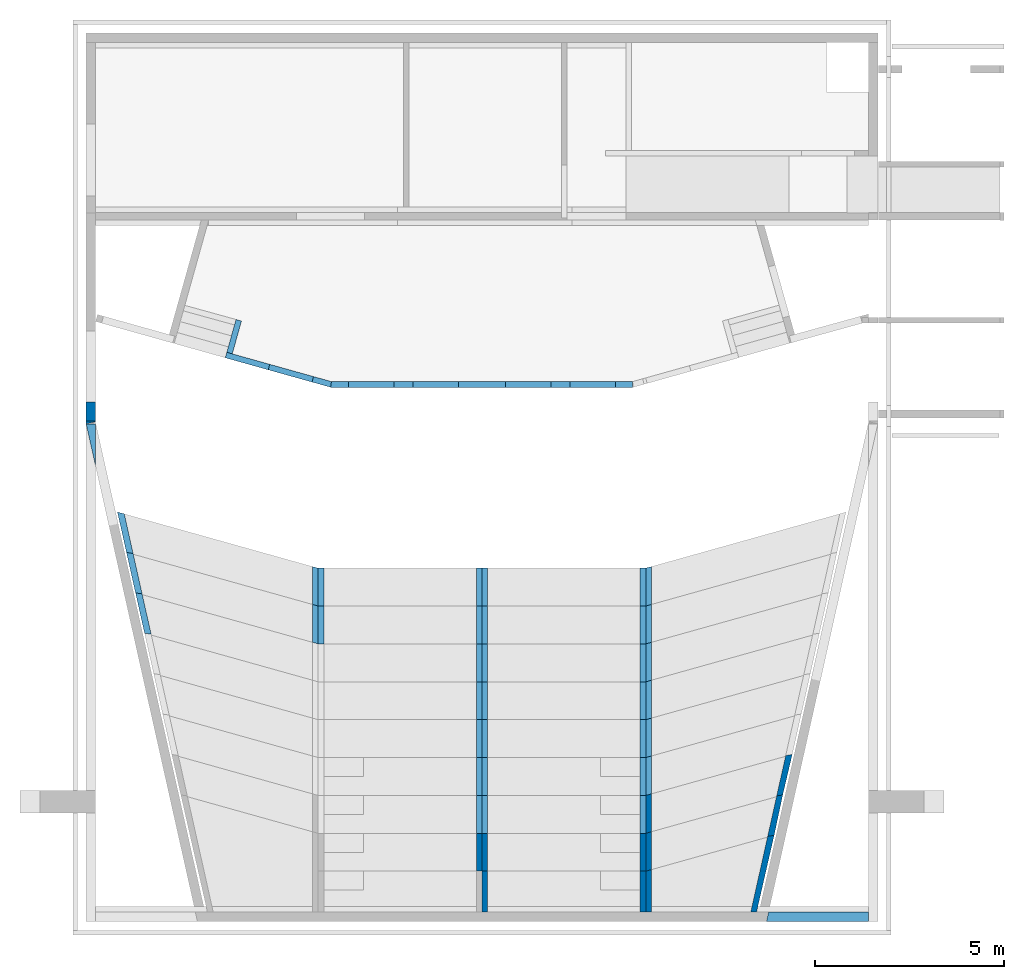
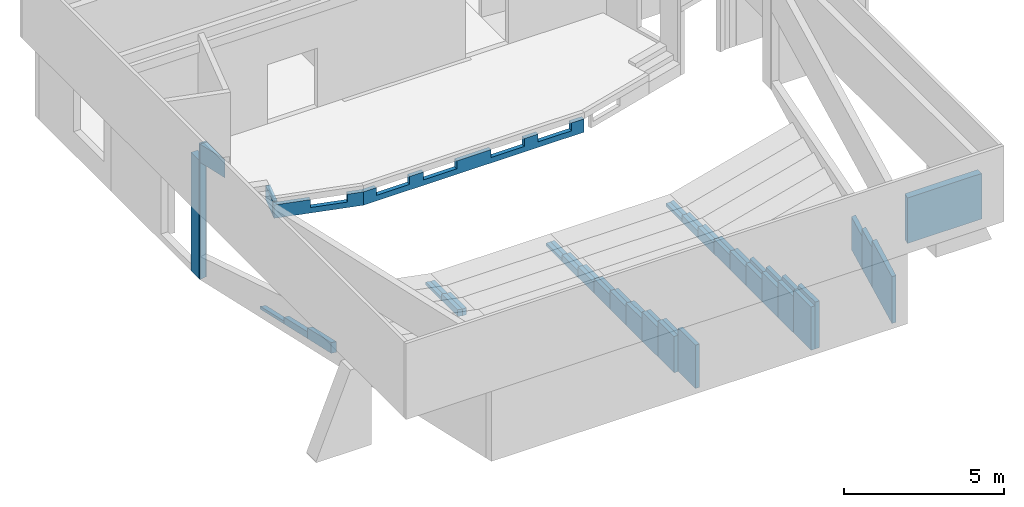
# One storey, part 2 of 5: 52 walls, 5 openings.
"""IFC4 building model written with IfcOpenShell, lengths in metres."""

import ifcopenshell
import ifcopenshell.guid

model = None  # the IFC model being written
_history = None  # IfcOwnerHistory: only IFC2X3 demands one
_inside = {}  # id of a spatial element -> (the spatial element, [elements in it])
_under = {}  # id of a project, library or spatial element -> (it, [spatial elements below it])
_declared = {}  # id of a project -> (the project, [libraries it declares])
_typed = {}  # id of a type object -> (the type object, [elements of that type])
_made_of = {}  # id of a material, layer set ... -> (it, [elements and type objects made of it])


def new_model(schema):
    """Start an empty IFC model of exactly this schema.

    Asked for "IFC4X3", IfcOpenShell would pick the latest addendum, in which some entities
    have other attributes; the version numbers below select the first issue.
    IFC2X3 requires an IfcOwnerHistory on every rooted entity: one is made here for all.
    """
    global model, _history
    if schema == "IFC4X3":
        model = ifcopenshell.file(schema_version=(4, 3, 0, 0))
    else:
        model = ifcopenshell.file(schema=schema)
    _inside.clear()
    _under.clear()
    _declared.clear()
    _typed.clear()
    _made_of.clear()
    _history = None
    if model.schema == "IFC2X3":
        org = make("IfcOrganization", Name="unknown")
        user = make(
            "IfcPersonAndOrganization",
            ThePerson=make("IfcPerson", FamilyName="unknown"),
            TheOrganization=org,
        )
        app = make(
            "IfcApplication",
            ApplicationDeveloper=org,
            Version="unknown",
            ApplicationFullName="unknown",
            ApplicationIdentifier="unknown",
        )
        _history = make(
            "IfcOwnerHistory",
            OwningUser=user,
            OwningApplication=app,
            ChangeAction="ADDED",
            CreationDate=0,
        )
    return model


def make(cls, **values):
    """One entity of the class cls with the attributes given. An attribute that is None is left unset."""
    return model.create_entity(
        cls, **{name: value for name, value in values.items() if value is not None}
    )


def entity(cls, *values):
    """Any entity or typed value of the class cls, its attributes in the order of the schema. None: left unset."""
    e = model.create_entity(cls)
    for i, value in enumerate(values):
        if value is not None:
            e[i] = value
    return e


def rooted(cls, **values):
    """An entity with a GlobalId (a new one), such as an element, a storey or a relation."""
    return make(cls, GlobalId=ifcopenshell.guid.new(), OwnerHistory=_history, **values)


def si_unit(unit_type, name, prefix=None):
    """IfcSIUnit, for example si_unit("LENGTHUNIT", "METRE", prefix="MILLI")."""
    return make("IfcSIUnit", UnitType=unit_type, Prefix=prefix, Name=name)


def converted_unit(unit_type, name, factor, base, dimensions=None, offset=None):
    """IfcConversionBasedUnit, such as the inch: factor (a typed value) times the base unit."""
    return make(
        "IfcConversionBasedUnit"
        if offset is None
        else "IfcConversionBasedUnitWithOffset",
        ConversionOffset=offset,
        Dimensions=None
        if dimensions is None
        else entity("IfcDimensionalExponents", *dimensions),
        UnitType=unit_type,
        Name=name,
        ConversionFactor=make(
            "IfcMeasureWithUnit", ValueComponent=factor, UnitComponent=base
        ),
    )


def derived_unit(unit_type, elements):
    """IfcDerivedUnit: a product of units, each with its exponent."""
    return make(
        "IfcDerivedUnit",
        Elements=[
            make("IfcDerivedUnitElement", Unit=unit, Exponent=power)
            for unit, power in elements
        ],
        UnitType=unit_type,
    )


def assignment(units):
    """IfcUnitAssignment: the units of a project."""
    return None if units is None else make("IfcUnitAssignment", Units=units)


def point(xyz):
    """IfcCartesianPoint."""
    return None if xyz is None else make("IfcCartesianPoint", Coordinates=xyz)


def direction(xyz):
    """IfcDirection."""
    return None if xyz is None else make("IfcDirection", DirectionRatios=xyz)


def frame(location, z_axis=None, x_axis=None):
    """IfcAxis2Placement3D, a coordinate frame: its origin and axes. An axis left out is left unset."""
    return make(
        "IfcAxis2Placement3D",
        Location=point(location),
        Axis=direction(z_axis),
        RefDirection=direction(x_axis),
    )


def frame_2d(location, x_axis=None):
    """IfcAxis2Placement2D, a coordinate frame in the plane: its origin and x axis."""
    return make(
        "IfcAxis2Placement2D", Location=point(location), RefDirection=direction(x_axis)
    )


def origin():
    """The frame at (0, 0, 0) with its axes left unset."""
    return frame((0.0, 0.0, 0.0))


def origin_with_axes():
    """The frame at (0, 0, 0) with the z axis (0, 0, 1) and the x axis (1, 0, 0) written out."""
    return frame((0.0, 0.0, 0.0), z_axis=(0.0, 0.0, 1.0), x_axis=(1.0, 0.0, 0.0))


def place(relative_to, where):
    """IfcLocalPlacement: puts the frame where relative to a parent placement (None: the world)."""
    return make(
        "IfcLocalPlacement", PlacementRelTo=relative_to, RelativePlacement=where
    )


def context(
    kind, dimensions, precision=None, world=None, true_north=None, identifier=None
):
    """IfcGeometricRepresentationContext, for example the 3D "Model" context."""
    return make(
        "IfcGeometricRepresentationContext",
        ContextIdentifier=identifier,
        ContextType=kind,
        CoordinateSpaceDimension=dimensions,
        Precision=precision,
        WorldCoordinateSystem=world,
        TrueNorth=true_north,
    )


def subcontext(parent, identifier, kind, view, scale=None):
    """IfcGeometricRepresentationSubContext, for example "Body" below "Model"."""
    return make(
        "IfcGeometricRepresentationSubContext",
        ContextIdentifier=identifier,
        ContextType=kind,
        ParentContext=parent,
        TargetScale=scale,
        TargetView=view,
    )


def project(units=None, contexts=None):
    """IfcProject with its units and contexts."""
    return rooted(
        "IfcProject",
        Name="project",
        RepresentationContexts=contexts,
        UnitsInContext=assignment(units),
    )


def spatial(cls, under=None, at=None, **own):
    """A site, building, storey or space (cls), placed at a placement, below another one or the project."""
    s = rooted(cls, ObjectPlacement=at, **own)
    if under is not None:
        _under.setdefault(under.id(), (under, []))[1].append(s)
    return s


def polyline(points):
    """IfcPolyline through the points."""
    return make("IfcPolyline", Points=[point(p) for p in points])


def profile(cls, at=None, kind="AREA", **sizes):
    """A parametric profile (cls). Its sizes go by their IFC names, for example OverallWidth=200.0."""
    return make(cls, ProfileType=kind, Position=at, **sizes)


def rectangle(**sizes):
    """IfcRectangleProfileDef."""
    return profile("IfcRectangleProfileDef", **sizes)


def outline(outer, holes=None, kind="AREA"):
    """IfcArbitraryClosedProfileDef: a profile drawn as a closed curve; with holes, ...WithVoids."""
    if holes is None:
        return make("IfcArbitraryClosedProfileDef", ProfileType=kind, OuterCurve=outer)
    return make(
        "IfcArbitraryProfileDefWithVoids",
        ProfileType=kind,
        OuterCurve=outer,
        InnerCurves=holes,
    )


def extrude(swept, where, along, depth):
    """IfcExtrudedAreaSolid: the profile swept, set in the frame where, extruded along a direction by depth."""
    return make(
        "IfcExtrudedAreaSolid",
        SweptArea=swept,
        Position=where,
        ExtrudedDirection=direction(along),
        Depth=depth,
    )


def clip(a, b, op="DIFFERENCE"):
    """IfcBooleanClippingResult: the solid a cut by the half space b."""
    return make(
        "IfcBooleanClippingResult", Operator=op, FirstOperand=a, SecondOperand=b
    )


def bounded_halfspace(plane, agree, where, boundary):
    """IfcPolygonalBoundedHalfSpace: a half space limited to a polygon's prism."""
    return make(
        "IfcPolygonalBoundedHalfSpace",
        BaseSurface=make("IfcPlane", Position=plane),
        AgreementFlag=agree,
        Position=where,
        PolygonalBoundary=boundary,
    )


def shape(context_of_items, identifier, shape_type, items):
    """IfcShapeRepresentation: the items that make up one representation, for example the "Body"."""
    return make(
        "IfcShapeRepresentation",
        ContextOfItems=context_of_items,
        RepresentationIdentifier=identifier,
        RepresentationType=shape_type,
        Items=items,
    )


def material(Name=None, Category=None):
    """IfcMaterial."""
    return make("IfcMaterial", Name=Name, Category=Category)


def made_of(thing, what):
    """Note that an element or type object is made of a material, layer set ...; save() writes the relation."""
    if what is not None:
        _made_of.setdefault(what.id(), (what, []))[1].append(thing)
    return thing


def element(
    cls,
    number,
    at=None,
    inside=None,
    cuts=None,
    type_object=None,
    material=None,
    context=None,
    identifier="Body",
    shape_type=None,
    held_by="IfcProductDefinitionShape",
    body=None,
    shapes=None,
    **own,
):
    """One element of the class cls, such as IfcWall. Its Tag is "e" and its number.

    at: its placement. inside: the storey or other place that contains it. cuts: it is an
    opening in that element (IfcRelVoidsElement). A single representation is given by context,
    identifier, shape_type and body (its items); several are given by shapes. held_by: the class
    of the entity that holds the representations. save() writes the other relations.
    """
    e = rooted(cls, Tag="e%d" % number, ObjectPlacement=at, **own)
    if body is not None:
        shapes = [shape(context, identifier, shape_type, body)]
    if shapes is not None:
        e.Representation = make(held_by, Representations=shapes)
    if inside is not None:
        _inside.setdefault(inside.id(), (inside, []))[1].append(e)
    if cuts is not None:
        rooted(
            "IfcRelVoidsElement", RelatingBuildingElement=cuts, RelatedOpeningElement=e
        )
    if type_object is not None:
        _typed.setdefault(type_object.id(), (type_object, []))[1].append(e)
    return made_of(e, material)


def aggregate(whole, parts):
    """IfcRelAggregates: a whole, such as a stair, and the parts it consists of."""
    return rooted("IfcRelAggregates", RelatingObject=whole, RelatedObjects=parts)


def save(model, path):
    """Write the relations noted so far, then the file.

    IfcRelAggregates (storeys below a building ...), IfcRelContainedInSpatialStructure (elements
    in a storey), IfcRelDefinesByType, IfcRelAssociatesMaterial and IfcRelDeclares: one each for
    every whole, place, type object, material and project.
    """
    for whole, parts in _under.values():
        aggregate(whole, parts)
    for where, things in _inside.values():
        rooted(
            "IfcRelContainedInSpatialStructure",
            RelatedElements=things,
            RelatingStructure=where,
        )
    for kind, things in _typed.values():
        rooted("IfcRelDefinesByType", RelatedObjects=things, RelatingType=kind)
    for what, things in _made_of.values():
        rooted("IfcRelAssociatesMaterial", RelatedObjects=things, RelatingMaterial=what)
    for by, libraries in _declared.values():
        rooted("IfcRelDeclares", RelatingContext=by, RelatedDefinitions=libraries)
    model.write(path)


model = new_model("IFC4")

# Units and contexts
model_context = context("Model", 3, precision=1e-05, world=origin())
plan_context = context("Plan", 2, precision=1e-05, world=origin())
body_context = subcontext(model_context, "Body", "Model", "MODEL_VIEW")
ifc_project = project(units=[si_unit("LENGTHUNIT", "METRE"), si_unit("AREAUNIT", "SQUARE_METRE"), si_unit("VOLUMEUNIT", "CUBIC_METRE"), si_unit("MASSUNIT", "GRAM", prefix="KILO"), converted_unit("PLANEANGLEUNIT", "DEGREE", entity("IfcPlaneAngleMeasure", 0.0174532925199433), si_unit("PLANEANGLEUNIT", "RADIAN"), dimensions=[0, 0, 0, 0, 0, 0, 0]), derived_unit("THERMALTRANSMITTANCEUNIT", [(si_unit("POWERUNIT", "WATT"), 1), (si_unit("THERMODYNAMICTEMPERATUREUNIT", "KELVIN"), -1), (si_unit("LENGTHUNIT", "METRE"), -2)]), derived_unit("VOLUMETRICFLOWRATEUNIT", [(si_unit("LENGTHUNIT", "METRE"), 3), (converted_unit("TIMEUNIT", "hour", entity("IfcTimeMeasure", 3600.0), si_unit("TIMEUNIT", "SECOND"), dimensions=[0, 0, 1, 0, 0, 0, 0]), -1), (si_unit("LENGTHUNIT", "METRE"), -1)])], contexts=[model_context, plan_context])

# Site, building, storey
site_placement = place(None, origin())
site = spatial("IfcSite", under=ifc_project, at=site_placement, Name="Site", CompositionType="ELEMENT")
building_placement = place(site_placement, origin())
building = spatial("IfcBuilding", under=site, at=building_placement, Name="Auditorium", CompositionType="ELEMENT")
storey_placement = place(building_placement, frame((0.0, 0.0, -0.26)))
storey = spatial("IfcBuildingStorey", under=building, at=storey_placement, Name="00-Rez", CompositionType="ELEMENT", Elevation=-0.26)

# Walls
ifc_material_1 = material(Name="C30/37")
wall_1_placement = place(storey_placement, frame((20.3998005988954, -0.000550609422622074, 3.06), z_axis=(0.0, 0.0, 1.0), x_axis=(-1.0, 0.0, 0.0)))
element("IfcWall", 1, at=wall_1_placement, inside=storey, material=ifc_material_1, Name="Voile BA Axe 1.1", context=body_context, shape_type="SweptSolid", body=[
    extrude(outline(polyline([(-2.6899999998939, -0.25), (-0.055936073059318, -0.25), (0.0, 0.0), (-2.6899999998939, 0.0), (-2.6899999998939, -0.25)])), frame((2.6899999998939, 0.25, 0.0), z_axis=(0.0, 0.0, 1.0), x_axis=(1.0, 0.0, 0.0)), (0.0, 0.0, 1.0), 1.74),
])
ifc_material_2 = material(Name="Silico-calcaire 15 cm")
wall_2_placement = place(storey_placement, frame((14.6748029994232, 8.12155779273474, 0.0), z_axis=(0.0, 0.0, 1.0), x_axis=(0.0, 1.0, 0.0)))
element("IfcWall", 2, at=wall_2_placement, inside=storey, material=ifc_material_2, Name="Maçonnerie Audit.", context=body_context, shape_type="SweptSolid", body=[
    extrude(outline(polyline([(0.0420406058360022, -0.149999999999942), (1.042040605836, -0.149999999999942), (1.0, 0.0), (0.0, 0.0), (0.0420406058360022, -0.149999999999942)])), frame((-0.0420406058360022, 0.149999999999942, 0.0), z_axis=(0.0, 0.0, 1.0), x_axis=(1.0, 0.0, 0.0)), (0.0, 0.0, 1.0), 0.11),
])
ifc_material_3 = material(Name="Silico-calcaire 15 cm")
wall_3_placement = place(storey_placement, frame((14.6748029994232, 7.12155779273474, 0.0), z_axis=(0.0, 0.0, 1.0), x_axis=(0.0, 1.0, 0.0)))
element("IfcWall", 3, at=wall_3_placement, inside=storey, material=ifc_material_3, Name="Maçonnerie Audit.", context=body_context, shape_type="SweptSolid", body=[
    extrude(outline(polyline([(0.0420406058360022, -0.149999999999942), (1.042040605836, -0.149999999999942), (1.0, 0.0), (0.0, 0.0), (0.0420406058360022, -0.149999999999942)])), frame((-0.0420406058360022, 0.149999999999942, 0.0), z_axis=(0.0, 0.0, 1.0), x_axis=(1.0, 0.0, 0.0)), (0.0, 0.0, 1.0), 0.26),
])
ifc_material_4 = material(Name="Silico-calcaire 15 cm")
wall_4_placement = place(storey_placement, frame((14.6748029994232, 6.12155779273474, 0.0), z_axis=(0.0, 0.0, 1.0), x_axis=(0.0, 1.0, 0.0)))
element("IfcWall", 4, at=wall_4_placement, inside=storey, material=ifc_material_4, Name="Maçonnerie Audit.", context=body_context, shape_type="SweptSolid", body=[
    extrude(outline(polyline([(0.0420406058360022, -0.149999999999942), (1.042040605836, -0.149999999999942), (1.0, 0.0), (0.0, 0.0), (0.0420406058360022, -0.149999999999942)])), frame((-0.0420406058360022, 0.149999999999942, 0.0), z_axis=(0.0, 0.0, 1.0), x_axis=(1.0, 0.0, 0.0)), (0.0, 0.0, 1.0), 0.41),
])
ifc_material_5 = material(Name="Silico-calcaire 15 cm")
wall_5_placement = place(storey_placement, frame((14.6748029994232, 5.12155779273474, 0.0), z_axis=(0.0, 0.0, 1.0), x_axis=(0.0, 1.0, 0.0)))
element("IfcWall", 5, at=wall_5_placement, inside=storey, material=ifc_material_5, Name="Maçonnerie Audit.", context=body_context, shape_type="SweptSolid", body=[
    extrude(outline(polyline([(0.0420406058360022, -0.149999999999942), (1.042040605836, -0.149999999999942), (1.0, 0.0), (0.0, 0.0), (0.0420406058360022, -0.149999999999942)])), frame((-0.0420406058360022, 0.149999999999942, 0.0), z_axis=(0.0, 0.0, 1.0), x_axis=(1.0, 0.0, 0.0)), (0.0, 0.0, 1.0), 0.56),
])
ifc_material_6 = material(Name="Silico-calcaire 15 cm")
wall_6_placement = place(storey_placement, frame((14.6748029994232, 4.12155779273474, 0.0), z_axis=(0.0, 0.0, 1.0), x_axis=(0.0, 1.0, 0.0)))
element("IfcWall", 6, at=wall_6_placement, inside=storey, material=ifc_material_6, Name="Maçonnerie Audit.", context=body_context, shape_type="SweptSolid", body=[
    extrude(outline(polyline([(0.0420406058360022, -0.149999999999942), (1.042040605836, -0.149999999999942), (1.0, 0.0), (0.0, 0.0), (0.0420406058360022, -0.149999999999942)])), frame((-0.0420406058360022, 0.149999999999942, 0.0), z_axis=(0.0, 0.0, 1.0), x_axis=(1.0, 0.0, 0.0)), (0.0, 0.0, 1.0), 0.71),
])
ifc_material_7 = material(Name="Silico-calcaire 15 cm")
wall_7_placement = place(storey_placement, frame((14.6748029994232, -0.000550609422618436, -1.13686837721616e-16), z_axis=(0.0, 0.0, 1.0), x_axis=(0.0, 1.0, 0.0)))
element("IfcWall", 7, at=wall_7_placement, inside=storey, material=ifc_material_7, Name="Maçonnerie Audit.", context=body_context, shape_type="SweptSolid", body=[
    extrude(outline(polyline([(0.0, -0.149999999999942), (1.12210840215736, -0.149999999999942), (1.08006779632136, 0.0), (0.0, 0.0), (0.0, -0.149999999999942)])), frame((0.0, 0.149999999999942, 0.0), z_axis=(0.0, 0.0, 1.0), x_axis=(1.0, 0.0, 0.0)), (0.0, 0.0, 1.0), 1.79),
])
ifc_material_8 = material(Name="Silico-calcaire 15 cm")
wall_8_placement = place(storey_placement, frame((14.6748029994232, 1.12155779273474, 0.0), z_axis=(0.0, 0.0, 1.0), x_axis=(0.0, 1.0, 0.0)))
element("IfcWall", 8, at=wall_8_placement, inside=storey, material=ifc_material_8, Name="Maçonnerie Audit.", context=body_context, shape_type="SweptSolid", body=[
    extrude(outline(polyline([(0.0420406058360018, -0.149999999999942), (1.042040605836, -0.149999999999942), (1.0, 0.0), (0.0, 0.0), (0.0420406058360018, -0.149999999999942)])), frame((-0.0420406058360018, 0.149999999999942, 0.0), z_axis=(0.0, 0.0, 1.0), x_axis=(1.0, 0.0, 0.0)), (0.0, 0.0, 1.0), 1.52),
])
ifc_material_9 = material(Name="Silico-calcaire 15 cm")
wall_9_placement = place(storey_placement, frame((14.6748029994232, 2.12155779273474, 0.0), z_axis=(0.0, 0.0, 1.0), x_axis=(0.0, 1.0, 0.0)))
element("IfcWall", 9, at=wall_9_placement, inside=storey, material=ifc_material_9, Name="Maçonnerie Audit.", context=body_context, shape_type="SweptSolid", body=[
    extrude(outline(polyline([(0.0420406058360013, -0.149999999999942), (1.042040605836, -0.149999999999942), (1.0, 0.0), (0.0, 0.0), (0.0420406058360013, -0.149999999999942)])), frame((-0.0420406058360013, 0.149999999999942, 0.0), z_axis=(0.0, 0.0, 1.0), x_axis=(1.0, 0.0, 0.0)), (0.0, 0.0, 1.0), 1.25),
])
ifc_material_10 = material(Name="Silico-calcaire 15 cm")
wall_10_placement = place(storey_placement, frame((14.6748029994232, 3.12155779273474, -5.6843418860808e-17), z_axis=(0.0, 0.0, 1.0), x_axis=(0.0, 1.0, 0.0)))
element("IfcWall", 10, at=wall_10_placement, inside=storey, material=ifc_material_10, Name="Maçonnerie Audit.", context=body_context, shape_type="SweptSolid", body=[
    extrude(outline(polyline([(0.0420406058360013, -0.149999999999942), (1.042040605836, -0.149999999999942), (1.0, 0.0), (0.0, 0.0), (0.0420406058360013, -0.149999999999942)])), frame((-0.0420406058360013, 0.149999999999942, 0.0), z_axis=(0.0, 0.0, 1.0), x_axis=(1.0, 0.0, 0.0)), (0.0, 0.0, 1.0), 0.98),
])
ifc_material_11 = material(Name="Silico-calcaire 15 cm")
wall_11_placement = place(storey_placement, frame((14.5248029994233, 8.07951718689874, 0.0), z_axis=(0.0, 0.0, 1.0), x_axis=(0.0, 1.0, 0.0)))
element("IfcWall", 11, at=wall_11_placement, inside=storey, material=ifc_material_11, Name="Maçonnerie Audit.", context=body_context, shape_type="SweptSolid", body=[
    extrude(rectangle(XDim=1.0, YDim=0.149999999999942, at=frame_2d((0.5, 0.0749999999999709), x_axis=(1.0, 0.0))), origin_with_axes(), (0.0, 0.0, 1.0), 0.11),
])
ifc_material_12 = material(Name="Silico-calcaire 15 cm")
wall_12_placement = place(storey_placement, frame((14.5248029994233, 7.07951718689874, 0.0), z_axis=(0.0, 0.0, 1.0), x_axis=(0.0, 1.0, 0.0)))
element("IfcWall", 12, at=wall_12_placement, inside=storey, material=ifc_material_12, Name="Maçonnerie Audit.", context=body_context, shape_type="SweptSolid", body=[
    extrude(rectangle(XDim=1.0, YDim=0.149999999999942, at=frame_2d((0.5, 0.0749999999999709), x_axis=(1.0, 0.0))), origin_with_axes(), (0.0, 0.0, 1.0), 0.26),
])
ifc_material_13 = material(Name="Silico-calcaire 15 cm")
wall_13_placement = place(storey_placement, frame((14.5248029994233, 6.07951718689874, 0.0), z_axis=(0.0, 0.0, 1.0), x_axis=(0.0, 1.0, 0.0)))
element("IfcWall", 13, at=wall_13_placement, inside=storey, material=ifc_material_13, Name="Maçonnerie Audit.", context=body_context, shape_type="SweptSolid", body=[
    extrude(rectangle(XDim=1.0, YDim=0.149999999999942, at=frame_2d((0.5, 0.0749999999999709), x_axis=(1.0, 0.0))), origin_with_axes(), (0.0, 0.0, 1.0), 0.41),
])
ifc_material_14 = material(Name="Silico-calcaire 15 cm")
wall_14_placement = place(storey_placement, frame((14.5248029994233, 5.07951718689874, 0.0), z_axis=(0.0, 0.0, 1.0), x_axis=(0.0, 1.0, 0.0)))
element("IfcWall", 14, at=wall_14_placement, inside=storey, material=ifc_material_14, Name="Maçonnerie Audit.", context=body_context, shape_type="SweptSolid", body=[
    extrude(rectangle(XDim=1.0, YDim=0.149999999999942, at=frame_2d((0.5, 0.0749999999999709), x_axis=(1.0, 0.0))), origin_with_axes(), (0.0, 0.0, 1.0), 0.56),
])
ifc_material_15 = material(Name="Silico-calcaire 15 cm")
wall_15_placement = place(storey_placement, frame((14.5248029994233, 4.07951718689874, 0.0), z_axis=(0.0, 0.0, 1.0), x_axis=(0.0, 1.0, 0.0)))
element("IfcWall", 15, at=wall_15_placement, inside=storey, material=ifc_material_15, Name="Maçonnerie Audit.", context=body_context, shape_type="SweptSolid", body=[
    extrude(rectangle(XDim=1.0, YDim=0.149999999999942, at=frame_2d((0.5, 0.0749999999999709), x_axis=(1.0, 0.0))), origin_with_axes(), (0.0, 0.0, 1.0), 0.71),
])
ifc_material_16 = material(Name="Silico-calcaire 15 cm")
wall_16_placement = place(storey_placement, frame((14.5248029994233, 3.07951718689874, 0.0), z_axis=(0.0, 0.0, 1.0), x_axis=(0.0, 1.0, 0.0)))
element("IfcWall", 16, at=wall_16_placement, inside=storey, material=ifc_material_16, Name="Maçonnerie Audit.", context=body_context, shape_type="SweptSolid", body=[
    extrude(rectangle(XDim=1.0, YDim=0.149999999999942, at=frame_2d((0.5, 0.0749999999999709), x_axis=(1.0, 0.0))), origin_with_axes(), (0.0, 0.0, 1.0), 0.845),
])
ifc_material_17 = material(Name="Silico-calcaire 15 cm")
wall_17_placement = place(storey_placement, frame((14.5248029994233, 1.07951718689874, 0.0), z_axis=(0.0, 0.0, 1.0), x_axis=(0.0, 1.0, 0.0)))
element("IfcWall", 17, at=wall_17_placement, inside=storey, material=ifc_material_17, Name="Maçonnerie Audit.", context=body_context, shape_type="SweptSolid", body=[
    extrude(rectangle(XDim=1.0, YDim=0.149999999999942, at=frame_2d((0.5, 0.0749999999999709), x_axis=(1.0, 0.0))), origin_with_axes(), (0.0, 0.0, 1.0), 1.385),
])
ifc_material_18 = material(Name="Silico-calcaire 15 cm")
wall_18_placement = place(storey_placement, frame((14.5248029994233, 2.07951718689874, 0.0), z_axis=(0.0, 0.0, 1.0), x_axis=(0.0, 1.0, 0.0)))
element("IfcWall", 18, at=wall_18_placement, inside=storey, material=ifc_material_18, Name="Maçonnerie Audit.", context=body_context, shape_type="SweptSolid", body=[
    extrude(rectangle(XDim=1.0, YDim=0.149999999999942, at=frame_2d((0.5, 0.0749999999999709), x_axis=(1.0, 0.0))), origin_with_axes(), (0.0, 0.0, 1.0), 1.115),
])
ifc_material_19 = material(Name="Silico-calcaire 15 cm")
wall_19_placement = place(storey_placement, frame((14.5248029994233, -0.000550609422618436, 0.0), z_axis=(0.0, 0.0, 1.0), x_axis=(0.0, 1.0, 0.0)))
element("IfcWall", 19, at=wall_19_placement, inside=storey, material=ifc_material_19, Name="Maçonnerie Audit.", context=body_context, shape_type="SweptSolid", body=[
    extrude(rectangle(XDim=1.08006779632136, YDim=0.149999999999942, at=frame_2d((0.540033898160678, 0.0749999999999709), x_axis=(1.0, 0.0))), origin_with_axes(), (0.0, 0.0, 1.0), 1.655),
])
ifc_material_20 = material(Name="Silico-calcaire 15 cm")
wall_20_placement = place(storey_placement, frame((6.02480299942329, 8.07951718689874, 0.0), z_axis=(0.0, 0.0, 1.0), x_axis=(0.0, 1.0, 0.0)))
element("IfcWall", 20, at=wall_20_placement, inside=storey, material=ifc_material_20, Name="Maçonnerie Audit.", context=body_context, shape_type="SweptSolid", body=[
    extrude(rectangle(XDim=1.0, YDim=0.149999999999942, at=frame_2d((0.5, 0.0749999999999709), x_axis=(1.0, 0.0))), origin_with_axes(), (0.0, 0.0, 1.0), 0.11),
])
ifc_material_21 = material(Name="Silico-calcaire 15 cm")
wall_21_placement = place(storey_placement, frame((6.02480299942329, 7.07951718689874, 0.0), z_axis=(0.0, 0.0, 1.0), x_axis=(0.0, 1.0, 0.0)))
element("IfcWall", 21, at=wall_21_placement, inside=storey, material=ifc_material_21, Name="Maçonnerie Audit.", context=body_context, shape_type="SweptSolid", body=[
    extrude(rectangle(XDim=1.0, YDim=0.149999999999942, at=frame_2d((0.5, 0.0749999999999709), x_axis=(1.0, 0.0))), origin_with_axes(), (0.0, 0.0, 1.0), 0.26),
])
ifc_material_22 = material(Name="Silico-calcaire 15 cm")
wall_22_placement = place(storey_placement, frame((5.87480299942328, 8.07951718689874, 0.0), z_axis=(0.0, 0.0, 1.0), x_axis=(0.0, 1.0, 0.0)))
element("IfcWall", 22, at=wall_22_placement, inside=storey, material=ifc_material_22, Name="Maçonnerie Audit.", context=body_context, shape_type="SweptSolid", body=[
    extrude(outline(polyline([(0.0, -0.149999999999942), (1.0, -0.149999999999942), (1.042040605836, 0.0), (0.0420406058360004, 0.0), (0.0, -0.149999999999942)])), frame((0.0, 0.149999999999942, 0.0), z_axis=(0.0, 0.0, 1.0), x_axis=(1.0, 0.0, 0.0)), (0.0, 0.0, 1.0), 0.11),
])
ifc_material_23 = material(Name="Silico-calcaire 15 cm")
wall_23_placement = place(storey_placement, frame((5.87480299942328, 7.07951718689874, 0.0), z_axis=(0.0, 0.0, 1.0), x_axis=(0.0, 1.0, 0.0)))
element("IfcWall", 23, at=wall_23_placement, inside=storey, material=ifc_material_23, Name="Maçonnerie Audit.", context=body_context, shape_type="SweptSolid", body=[
    extrude(outline(polyline([(0.0, -0.149999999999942), (1.0, -0.149999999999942), (1.042040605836, 0.0), (0.0420406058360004, 0.0), (0.0, -0.149999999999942)])), frame((0.0, 0.149999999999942, 0.0), z_axis=(0.0, 0.0, 1.0), x_axis=(1.0, 0.0, 0.0)), (0.0, 0.0, 1.0), 0.26),
])
ifc_material_24 = material(Name="Silico-calcaire 15 cm")
wall_24_placement = place(storey_placement, frame((10.1998029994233, 8.07951718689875, 0.0), z_axis=(0.0, 0.0, 1.0), x_axis=(0.0, 1.0, 0.0)))
element("IfcWall", 24, at=wall_24_placement, inside=storey, material=ifc_material_24, Name="Maçonnerie Audit.", context=body_context, shape_type="SweptSolid", body=[
    extrude(rectangle(XDim=1.0, YDim=0.149999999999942, at=frame_2d((0.5, 0.0749999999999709), x_axis=(1.0, 0.0))), origin_with_axes(), (0.0, 0.0, 1.0), 0.11),
])
ifc_material_25 = material(Name="Silico-calcaire 15 cm")
wall_25_placement = place(storey_placement, frame((10.1998029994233, 7.07951718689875, 0.0), z_axis=(0.0, 0.0, 1.0), x_axis=(0.0, 1.0, 0.0)))
element("IfcWall", 25, at=wall_25_placement, inside=storey, material=ifc_material_25, Name="Maçonnerie Audit.", context=body_context, shape_type="SweptSolid", body=[
    extrude(rectangle(XDim=1.0, YDim=0.149999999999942, at=frame_2d((0.5, 0.0749999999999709), x_axis=(1.0, 0.0))), origin_with_axes(), (0.0, 0.0, 1.0), 0.26),
])
ifc_material_26 = material(Name="Silico-calcaire 15 cm")
wall_26_placement = place(storey_placement, frame((10.1998029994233, 6.07951718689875, 0.0), z_axis=(0.0, 0.0, 1.0), x_axis=(0.0, 1.0, 0.0)))
element("IfcWall", 26, at=wall_26_placement, inside=storey, material=ifc_material_26, Name="Maçonnerie Audit.", context=body_context, shape_type="SweptSolid", body=[
    extrude(rectangle(XDim=1.0, YDim=0.149999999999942, at=frame_2d((0.5, 0.0749999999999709), x_axis=(1.0, 0.0))), origin_with_axes(), (0.0, 0.0, 1.0), 0.41),
])
ifc_material_27 = material(Name="Silico-calcaire 15 cm")
wall_27_placement = place(storey_placement, frame((10.1998029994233, 5.07951718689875, 0.0), z_axis=(0.0, 0.0, 1.0), x_axis=(0.0, 1.0, 0.0)))
element("IfcWall", 27, at=wall_27_placement, inside=storey, material=ifc_material_27, Name="Maçonnerie Audit.", context=body_context, shape_type="SweptSolid", body=[
    extrude(rectangle(XDim=1.0, YDim=0.149999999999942, at=frame_2d((0.5, 0.0749999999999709), x_axis=(1.0, 0.0))), origin_with_axes(), (0.0, 0.0, 1.0), 0.56),
])
ifc_material_28 = material(Name="Silico-calcaire 15 cm")
wall_28_placement = place(storey_placement, frame((10.1998029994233, 4.07951718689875, 0.0), z_axis=(0.0, 0.0, 1.0), x_axis=(0.0, 1.0, 0.0)))
element("IfcWall", 28, at=wall_28_placement, inside=storey, material=ifc_material_28, Name="Maçonnerie Audit.", context=body_context, shape_type="SweptSolid", body=[
    extrude(rectangle(XDim=1.0, YDim=0.149999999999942, at=frame_2d((0.5, 0.0749999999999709), x_axis=(1.0, 0.0))), origin_with_axes(), (0.0, 0.0, 1.0), 0.71),
])
ifc_material_29 = material(Name="Silico-calcaire 15 cm")
wall_29_placement = place(storey_placement, frame((10.1998029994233, 3.07951718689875, 0.0), z_axis=(0.0, 0.0, 1.0), x_axis=(0.0, 1.0, 0.0)))
element("IfcWall", 29, at=wall_29_placement, inside=storey, material=ifc_material_29, Name="Maçonnerie Audit.", context=body_context, shape_type="SweptSolid", body=[
    extrude(rectangle(XDim=1.0, YDim=0.149999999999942, at=frame_2d((0.5, 0.0749999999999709), x_axis=(1.0, 0.0))), origin_with_axes(), (0.0, 0.0, 1.0), 0.845),
])
ifc_material_30 = material(Name="Silico-calcaire 15 cm")
wall_30_placement = place(storey_placement, frame((10.1998029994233, 1.07951718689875, 0.0), z_axis=(0.0, 0.0, 1.0), x_axis=(0.0, 1.0, 0.0)))
element("IfcWall", 30, at=wall_30_placement, inside=storey, material=ifc_material_30, Name="Maçonnerie Audit.", context=body_context, shape_type="SweptSolid", body=[
    extrude(rectangle(XDim=1.0, YDim=0.149999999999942, at=frame_2d((0.5, 0.0749999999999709), x_axis=(1.0, 0.0))), origin_with_axes(), (0.0, 0.0, 1.0), 1.385),
])
ifc_material_31 = material(Name="Silico-calcaire 15 cm")
wall_31_placement = place(storey_placement, frame((10.1998029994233, 2.07951718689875, 0.0), z_axis=(0.0, 0.0, 1.0), x_axis=(0.0, 1.0, 0.0)))
element("IfcWall", 31, at=wall_31_placement, inside=storey, material=ifc_material_31, Name="Maçonnerie Audit.", context=body_context, shape_type="SweptSolid", body=[
    extrude(rectangle(XDim=1.0, YDim=0.149999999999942, at=frame_2d((0.5, 0.0749999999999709), x_axis=(1.0, 0.0))), origin_with_axes(), (0.0, 0.0, 1.0), 1.115),
])
ifc_material_32 = material(Name="Silico-calcaire 15 cm")
wall_32_placement = place(storey_placement, frame((10.3498029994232, 8.07951718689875, 0.0), z_axis=(0.0, 0.0, 1.0), x_axis=(0.0, 1.0, 0.0)))
element("IfcWall", 32, at=wall_32_placement, inside=storey, material=ifc_material_32, Name="Maçonnerie Audit.", context=body_context, shape_type="SweptSolid", body=[
    extrude(rectangle(XDim=1.0, YDim=0.149999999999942, at=frame_2d((0.5, 0.0749999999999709), x_axis=(1.0, 0.0))), origin_with_axes(), (0.0, 0.0, 1.0), 0.11),
])
ifc_material_33 = material(Name="Silico-calcaire 15 cm")
wall_33_placement = place(storey_placement, frame((10.3498029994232, 7.07951718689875, 0.0), z_axis=(0.0, 0.0, 1.0), x_axis=(0.0, 1.0, 0.0)))
element("IfcWall", 33, at=wall_33_placement, inside=storey, material=ifc_material_33, Name="Maçonnerie Audit.", context=body_context, shape_type="SweptSolid", body=[
    extrude(rectangle(XDim=1.0, YDim=0.149999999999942, at=frame_2d((0.5, 0.0749999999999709), x_axis=(1.0, 0.0))), origin_with_axes(), (0.0, 0.0, 1.0), 0.26),
])
ifc_material_34 = material(Name="Silico-calcaire 15 cm")
wall_34_placement = place(storey_placement, frame((10.3498029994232, 6.07951718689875, 0.0), z_axis=(0.0, 0.0, 1.0), x_axis=(0.0, 1.0, 0.0)))
element("IfcWall", 34, at=wall_34_placement, inside=storey, material=ifc_material_34, Name="Maçonnerie Audit.", context=body_context, shape_type="SweptSolid", body=[
    extrude(rectangle(XDim=1.0, YDim=0.149999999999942, at=frame_2d((0.5, 0.0749999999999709), x_axis=(1.0, 0.0))), origin_with_axes(), (0.0, 0.0, 1.0), 0.41),
])
ifc_material_35 = material(Name="Silico-calcaire 15 cm")
wall_35_placement = place(storey_placement, frame((10.3498029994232, 5.07951718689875, 0.0), z_axis=(0.0, 0.0, 1.0), x_axis=(0.0, 1.0, 0.0)))
element("IfcWall", 35, at=wall_35_placement, inside=storey, material=ifc_material_35, Name="Maçonnerie Audit.", context=body_context, shape_type="SweptSolid", body=[
    extrude(rectangle(XDim=1.0, YDim=0.149999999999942, at=frame_2d((0.5, 0.0749999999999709), x_axis=(1.0, 0.0))), origin_with_axes(), (0.0, 0.0, 1.0), 0.56),
])
ifc_material_36 = material(Name="Silico-calcaire 15 cm")
wall_36_placement = place(storey_placement, frame((10.3498029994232, 4.07951718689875, 0.0), z_axis=(0.0, 0.0, 1.0), x_axis=(0.0, 1.0, 0.0)))
element("IfcWall", 36, at=wall_36_placement, inside=storey, material=ifc_material_36, Name="Maçonnerie Audit.", context=body_context, shape_type="SweptSolid", body=[
    extrude(rectangle(XDim=1.0, YDim=0.149999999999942, at=frame_2d((0.5, 0.0749999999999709), x_axis=(1.0, 0.0))), origin_with_axes(), (0.0, 0.0, 1.0), 0.71),
])
ifc_material_37 = material(Name="Silico-calcaire 15 cm")
wall_37_placement = place(storey_placement, frame((10.3498029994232, 3.07951718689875, 0.0), z_axis=(0.0, 0.0, 1.0), x_axis=(0.0, 1.0, 0.0)))
element("IfcWall", 37, at=wall_37_placement, inside=storey, material=ifc_material_37, Name="Maçonnerie Audit.", context=body_context, shape_type="SweptSolid", body=[
    extrude(rectangle(XDim=1.0, YDim=0.149999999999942, at=frame_2d((0.5, 0.0749999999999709), x_axis=(1.0, 0.0))), origin_with_axes(), (0.0, 0.0, 1.0), 0.845),
])
ifc_material_38 = material(Name="Silico-calcaire 15 cm")
wall_38_placement = place(storey_placement, frame((10.3498029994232, 1.07951718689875, 0.0), z_axis=(0.0, 0.0, 1.0), x_axis=(0.0, 1.0, 0.0)))
element("IfcWall", 38, at=wall_38_placement, inside=storey, material=ifc_material_38, Name="Maçonnerie Audit.", context=body_context, shape_type="SweptSolid", body=[
    extrude(rectangle(XDim=1.0, YDim=0.149999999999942, at=frame_2d((0.5, 0.0749999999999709), x_axis=(1.0, 0.0))), origin_with_axes(), (0.0, 0.0, 1.0), 1.385),
])
ifc_material_39 = material(Name="Silico-calcaire 15 cm")
wall_39_placement = place(storey_placement, frame((10.3498029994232, 2.07951718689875, 0.0), z_axis=(0.0, 0.0, 1.0), x_axis=(0.0, 1.0, 0.0)))
element("IfcWall", 39, at=wall_39_placement, inside=storey, material=ifc_material_39, Name="Maçonnerie Audit.", context=body_context, shape_type="SweptSolid", body=[
    extrude(rectangle(XDim=1.0, YDim=0.149999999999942, at=frame_2d((0.5, 0.0749999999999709), x_axis=(1.0, 0.0))), origin_with_axes(), (0.0, 0.0, 1.0), 1.115),
])
ifc_material_40 = material(Name="Silico-calcaire 15 cm")
wall_40_placement = place(storey_placement, frame((10.3498029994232, -0.00055060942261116, 0.0), z_axis=(0.0, 0.0, 1.0), x_axis=(0.0, 1.0, 0.0)))
element("IfcWall", 40, at=wall_40_placement, inside=storey, material=ifc_material_40, Name="Maçonnerie Audit.", context=body_context, shape_type="SweptSolid", body=[
    extrude(rectangle(XDim=1.08006779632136, YDim=0.149999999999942, at=frame_2d((0.540033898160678, 0.0749999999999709), x_axis=(1.0, 0.0))), origin_with_axes(), (0.0, 0.0, 1.0), 1.655),
])

# Wall, openings
ifc_material_41 = material(Name="Silico-calcaire 15 cm")
wall_41_placement = place(storey_placement, frame((6.20455301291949, 13.8541506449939, 0.0), z_axis=(0.0, 0.0, 1.0), x_axis=(1.0, -1.36934976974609e-15, 0.0)))
wall_41 = element("IfcWall", 41, at=wall_41_placement, inside=storey, material=ifc_material_41, Name="Maçonnerie Audit.", context=body_context, shape_type="SweptSolid", body=[
    extrude(outline(polyline([(-1.49449963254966e-29, 1.09139364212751e-14), (7.9701597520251, 1.09139364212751e-14), (7.9701597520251, 0.149999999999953), (0.0205987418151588, 0.149999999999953), (-1.49449963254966e-29, 1.09139364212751e-14)])), frame((1.49449963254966e-29, -1.09139364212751e-14, 0.0), z_axis=(0.0, 0.0, 1.0), x_axis=(1.0, 0.0, 0.0)), (0.0, 0.0, 1.0), 0.51),
])
opening_1_placement = place(wall_41_placement, frame((4.61632870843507, 4.50237925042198e-15, 0.21), z_axis=(0.0, 1.0, 0.0), x_axis=(0.0, 0.0, 1.0)))
element("IfcOpeningElement", 42, at=opening_1_placement, cuts=wall_41, Name="Niche dans mur", ObjectType="Opening", context=body_context, shape_type="SweptSolid", body=[
    extrude(outline(polyline([(0.0, 1.2), (0.3, 1.2), (0.3, 0.0), (0.0, 0.0), (0.0, 1.2)])), origin_with_axes(), (0.0, 0.0, 1.0), 0.149999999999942),
])
opening_2_placement = place(wall_41_placement, frame((6.31632870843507, 1.37330564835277e-15, 0.21), z_axis=(0.0, 1.0, 0.0), x_axis=(0.0, 0.0, 1.0)))
element("IfcOpeningElement", 43, at=opening_2_placement, cuts=wall_41, Name="Niche dans mur", ObjectType="Opening", context=body_context, shape_type="SweptSolid", body=[
    extrude(outline(polyline([(0.0, 1.2), (0.3, 1.2), (0.3, 0.0), (0.0, 0.0), (0.0, 1.2)])), origin_with_axes(), (0.0, 0.0, 1.0), 0.149999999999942),
])
opening_3_placement = place(wall_41_placement, frame((2.17416645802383, 1.15820493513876e-15, 0.21), z_axis=(0.0, 1.0, 0.0), x_axis=(0.0, 0.0, 1.0)))
element("IfcOpeningElement", 44, at=opening_3_placement, cuts=wall_41, Name="Niche dans mur", ObjectType="Opening", context=body_context, shape_type="SweptSolid", body=[
    extrude(outline(polyline([(0.0, 1.2), (0.3, 1.2), (0.3, 0.0), (0.0, 0.0), (0.0, 1.2)])), origin_with_axes(), (0.0, 0.0, 1.0), 0.149999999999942),
])
opening_4_placement = place(wall_41_placement, frame((0.474166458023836, -1.1696896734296e-15, 0.21), z_axis=(-1.51582450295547e-15, 1.0, 0.0), x_axis=(0.0, 0.0, 1.0)))
element("IfcOpeningElement", 45, at=opening_4_placement, cuts=wall_41, Name="Niche dans mur", ObjectType="Opening", context=body_context, shape_type="SweptSolid", body=[
    extrude(outline(polyline([(0.0, 1.2), (0.3, 1.2), (0.3, 0.0), (0.0, 0.0), (0.0, 1.2)])), origin_with_axes(), (0.0, 0.0, 1.0), 0.149999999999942),
])

# Wall, opening
ifc_material_42 = material(Name="Silico-calcaire 15 cm")
wall_42_placement = place(storey_placement, frame((3.42375991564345, 14.6325747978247, 0.0), z_axis=(0.0, 0.0, 1.0), x_axis=(0.96298181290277, -0.269566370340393, 0.0)))
wall_42 = element("IfcWall", 46, at=wall_42_placement, inside=storey, material=ifc_material_42, Name="Maçonnerie Audit.", context=body_context, shape_type="SweptSolid", body=[
    extrude(outline(polyline([(-0.209836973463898, 0.74960830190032), (2.67785317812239, 0.74960830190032), (2.65725443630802, 0.899608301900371), (-0.209836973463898, 0.899608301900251), (-0.209836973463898, 0.74960830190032)])), frame((0.209836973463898, -0.74960830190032, 0.0), z_axis=(0.0, 0.0, 1.0), x_axis=(1.0, 0.0, 0.0)), (0.0, 0.0, 1.0), 0.51),
])
opening_5_placement = place(wall_42_placement, frame((1.17754608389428, -7.38964445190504e-16, 0.21), z_axis=(1.51582450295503e-15, 1.0, 0.0), x_axis=(0.0, 0.0, 1.0)))
element("IfcOpeningElement", 47, at=opening_5_placement, cuts=wall_42, Name="Niche dans mur", ObjectType="Opening", context=body_context, shape_type="SweptSolid", body=[
    extrude(outline(polyline([(0.0, 1.2), (0.3, 1.2), (0.3, 0.0), (0.0, 0.0), (0.0, 1.2)])), origin_with_axes(), (0.0, 0.0, 1.0), 0.149999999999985),
])

# Walls
ifc_material_43 = material(Name="Silico-calcaire 15 cm")
wall_43_placement = place(storey_placement, frame((3.6086421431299, 14.736587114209, 0.0), z_axis=(0.0, 0.0, 1.0), x_axis=(0.26956637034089, 0.962981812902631, 0.0)))
element("IfcWall", 48, at=wall_43_placement, inside=storey, material=ifc_material_43, Name="Maçonnerie Audit.", context=body_context, shape_type="SweptSolid", body=[
    extrude(outline(polyline([(0.0389381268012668, -0.139100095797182), (0.938938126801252, -0.139100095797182), (0.938374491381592, 0.0108977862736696), (0.938374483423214, 0.0108999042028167), (0.931101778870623, 0.0108999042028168), (0.788980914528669, 0.0103658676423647), (0.788978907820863, 0.0108999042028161), (0.788373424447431, 0.0108999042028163), (0.788373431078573, 0.010898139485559), (0.0389381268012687, 0.0108999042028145), (0.0389381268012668, -0.139100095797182)])), frame((-0.0389381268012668, 0.139100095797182, 0.0), z_axis=(0.0, 0.0, 1.0), x_axis=(1.0, 0.0, 0.0)), (0.0, 0.0, 1.0), 0.55),
])
ifc_material_44 = material(Name="Silico-calcaire 15 cm")
wall_44_placement = place(storey_placement, frame((0.990672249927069, 9.46636045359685, 0.0), z_axis=(0.0, 0.0, 1.0), x_axis=(-0.217991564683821, 0.975950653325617, 0.0)))
element("IfcWall", 49, at=wall_44_placement, inside=storey, material=ifc_material_44, Name="Maçonnerie Audit.", context=body_context, shape_type="SweptSolid", body=[
    extrude(outline(polyline([(-0.0902228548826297, -0.403928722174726), (0.9813487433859, -0.403928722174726), (1.06990603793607, -0.238977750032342), (-0.0233650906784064, -0.239516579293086), (-0.0902228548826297, -0.403928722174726)])), frame((0.0902228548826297, 0.403928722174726, 0.0), z_axis=(0.0, 0.0, 1.0), x_axis=(1.0, 0.0, 0.0)), (0.0, 0.0, 1.0), 0.11),
])
ifc_material_45 = material(Name="Silico-calcaire 15 cm")
wall_45_placement = place(storey_placement, frame((1.22895241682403, 8.39957750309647, 0.0), z_axis=(0.0, 0.0, 1.0), x_axis=(-0.217991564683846, 0.975950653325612, 0.0)))
element("IfcWall", 50, at=wall_45_placement, inside=storey, material=ifc_material_45, Name="Maçonnerie Audit.", context=body_context, shape_type="SweptSolid", body=[
    extrude(outline(polyline([(-0.0900986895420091, -0.40337283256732), (1.00297189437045, -0.40337283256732), (1.06982965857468, -0.238960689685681), (-0.0234414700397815, -0.239499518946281), (-0.0900986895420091, -0.40337283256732)])), frame((0.0900986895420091, 0.40337283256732, 0.0), z_axis=(0.0, 0.0, 1.0), x_axis=(1.0, 0.0, 0.0)), (0.0, 0.0, 1.0), 0.26),
])
ifc_material_46 = material(Name="Silico-calcaire 15 cm")
wall_46_placement = place(storey_placement, frame((1.46723258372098, 7.33279455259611, 0.0), z_axis=(0.0, 0.0, 1.0), x_axis=(-0.217991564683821, 0.975950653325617, 0.0)))
element("IfcWall", 51, at=wall_46_placement, inside=storey, material=ifc_material_46, Name="Maçonnerie Audit.", context=body_context, shape_type="SweptSolid", body=[
    extrude(outline(polyline([(-0.0899745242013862, -0.402816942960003), (1.00309605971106, -0.402816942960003), (1.0697532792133, -0.238943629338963), (-0.0235178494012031, -0.23948245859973), (-0.0899745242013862, -0.402816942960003)])), frame((0.0899745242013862, 0.402816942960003, 0.0), z_axis=(0.0, 0.0, 1.0), x_axis=(1.0, 0.0, 0.0)), (0.0, 0.0, 1.0), 0.41),
])
ifc_material_47 = material(Name="Silico-calcaire 15 cm")
wall_47_placement = place(storey_placement, frame((18.1386303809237, 3.09109816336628, 0.0), z_axis=(0.0, 0.0, 1.0), x_axis=(0.228632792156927, 0.973512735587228, 0.0)))
element("IfcWall", 52, at=wall_47_placement, inside=storey, material=ifc_material_47, Name="Maçonnerie Audit.", context=body_context, shape_type="SweptSolid", body=[
    extrude(outline(polyline([(0.0612006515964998, -0.149340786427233), (1.1606921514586, -0.149340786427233), (1.0930054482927, 0.011932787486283), (0.0, 0.0), (0.0612006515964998, -0.149340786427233)])), frame((-0.0612006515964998, 0.149340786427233, 0.0), z_axis=(0.0, 0.0, 1.0), x_axis=(1.0, 0.0, 0.0)), (0.0, 0.0, 1.0), 1.25),
])
ifc_material_48 = material(Name="Silico-calcaire 15 cm")
wall_48_placement = place(storey_placement, frame((17.4480694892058, -0.000550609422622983, -1.13686837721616e-16), z_axis=(0.0, 0.0, 1.0), x_axis=(0.223113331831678, 0.974792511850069, 0.0)))
element("IfcWall", 53, at=wall_48_placement, inside=storey, material=ifc_material_48, Name="Maçonnerie Audit.", context=body_context, shape_type="SweptSolid", body=[
    extrude(outline(polyline([(0.0342916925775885, -0.149821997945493), (2.11503719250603, -0.149821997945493), (2.04867206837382, 0.0107578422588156), (2.21642156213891e-16, 5.07300982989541e-17), (0.0342916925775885, -0.149821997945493)])), frame((-0.0342916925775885, 0.149821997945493, 0.0), z_axis=(0.0, 0.0, 1.0), x_axis=(1.0, 0.0, 0.0)), (0.0, 0.0, 1.0), 1.79),
])
ifc_material_49 = material(Name="Silico-calcaire 15 cm")
wall_49_placement = place(storey_placement, frame((17.9123115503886, 2.02774452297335, 0.0), z_axis=(0.0, 0.0, 1.0), x_axis=(0.208172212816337, 0.978092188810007, 0.0)))
element("IfcWall", 54, at=wall_49_placement, inside=storey, material=ifc_material_49, Name="Maçonnerie Audit.", context=body_context, shape_type="SweptSolid", body=[
    extrude(outline(polyline([(0.0639003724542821, -0.161576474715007), (1.15107155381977, -0.161576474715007), (1.09301538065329, -0.0109854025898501), (0.0, 0.0), (0.0639003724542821, -0.161576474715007)])), frame((-0.0639003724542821, 0.161576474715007, 0.0), z_axis=(0.0, 0.0, 1.0), x_axis=(1.0, 0.0, 0.0)), (0.0, 0.0, 1.0), 1.52),
])
ifc_material_50 = material(Name="C30/37")
wall_50_placement = place(storey_placement, frame((-0.250199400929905, 12.9670758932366, 0.0), z_axis=(0.0, 0.0, 1.0), x_axis=(0.0, -1.0, 0.0)))
element("IfcWall", 55, at=wall_50_placement, inside=storey, material=ifc_material_50, Name="Voile BA Axe 1.A", context=body_context, shape_type="Clipping", body=[
    clip(extrude(rectangle(XDim=0.0776265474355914, YDim=0.25, at=frame_2d((0.0388132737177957, 0.125), x_axis=(1.0, 0.0))), origin_with_axes(), (0.0, 0.0, 1.0), 5.18), bounded_halfspace(frame((0.0611795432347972, 0.150484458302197, 4.46), z_axis=(0.0, 0.0, 1.0), x_axis=(-0.975871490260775, -0.218345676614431, 0.0)), True, origin_with_axes(), polyline([(0.0500000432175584, 0.25), (0.0239302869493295, 0.24416704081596), (0.0767142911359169, 0.00825525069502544), (0.0776265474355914, 0.0), (0.0776265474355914, 0.25), (0.0500000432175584, 0.25)]))),
])
ifc_material_51 = material(Name="C30/37")
wall_51_placement = place(storey_placement, frame((-0.250199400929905, 12.889449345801, 4.48), z_axis=(0.0, 0.0, 1.0), x_axis=(0.218346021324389, -0.975871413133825, 0.0)))
element("IfcWall", 56, at=wall_51_placement, inside=storey, material=ifc_material_51, Name="Voile BA Axe 1.A", context=body_context, shape_type="SweptSolid", body=[
    extrude(outline(polyline([(-1.09038512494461, 0.243967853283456), (0.0545865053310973, 0.243967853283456), (-1.03579861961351, 0.487935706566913), (-1.09038512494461, 0.243967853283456)])), frame((1.09038512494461, -0.243967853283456, 0.0), z_axis=(0.0, 0.0, 1.0), x_axis=(1.0, 0.0, 0.0)), (0.0, 0.0, 1.0), 0.7),
])
ifc_material_52 = material(Name="C30/37")
wall_52_placement = place(storey_placement, frame((-0.250199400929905, 13.4670758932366, 0.0), z_axis=(0.0, 0.0, 1.0), x_axis=(0.0, -1.0, 0.0)))
element("IfcWall", 57, at=wall_52_placement, inside=storey, material=ifc_material_52, Name="Voile BA Axe 1.A", context=body_context, shape_type="SweptSolid", body=[
    extrude(outline(polyline([(-0.5, 0.0), (-0.171383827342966, 2.94049783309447e-05), (0.0, 0.0), (0.0, 0.25), (-0.171383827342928, 0.250029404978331), (-0.5, 0.25), (-0.5, 0.0)])), frame((0.5, 0.0, 0.0), z_axis=(0.0, 0.0, 1.0), x_axis=(1.0, 0.0, 0.0)), (0.0, 0.0, 1.0), 4.52),
])

save(model, "model.ifc")
